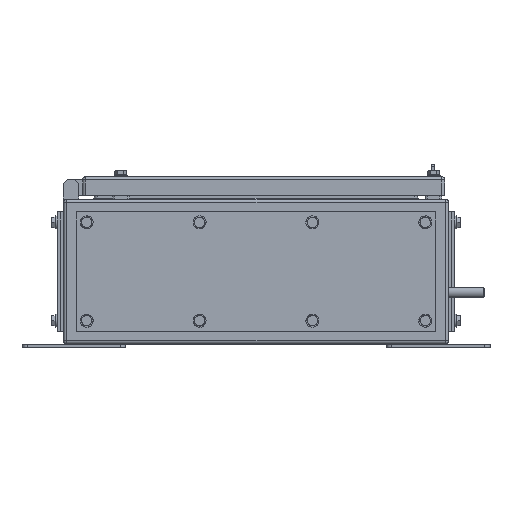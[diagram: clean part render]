
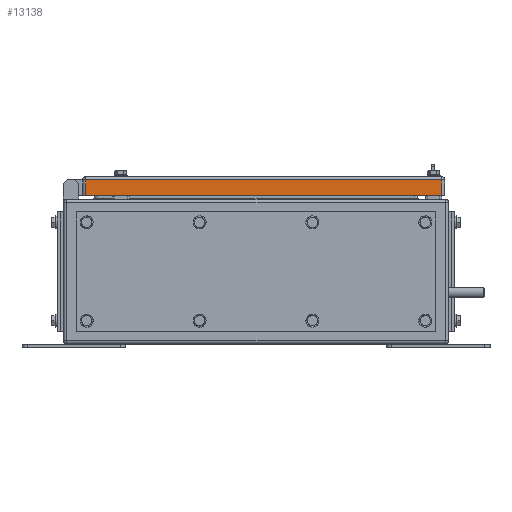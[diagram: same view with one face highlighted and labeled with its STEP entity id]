
A CAD part, front view. The second image highlights one B-rep face of the part: STEP entity #13138.
In plain terms, the highlighted planar face has unit normal (0, -1, 0) as drawn and (-1, 0, 0) by its records, which use the part's own axes.
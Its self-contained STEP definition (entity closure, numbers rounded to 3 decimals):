
#1320 = AXIS2_PLACEMENT_3D ( 'NONE', #15272, #21121, #17225 ) ;
#2494 = LINE ( 'NONE', #20412, #20644 ) ;
#4696 = CARTESIAN_POINT ( 'NONE',  ( -252., -358., 0. ) ) ;
#5413 = PLANE ( 'NONE',  #1320 ) ;
#5900 = VECTOR ( 'NONE', #23517, 1000. ) ;
#5905 = CARTESIAN_POINT ( 'NONE',  ( -252., -358., 15. ) ) ;
#6054 = EDGE_CURVE ( 'NONE', #11086, #15939, #13686, .T. ) ;
#6122 = EDGE_LOOP ( 'NONE', ( #8361, #15525, #10306, #22240 ) ) ;
#6469 = CARTESIAN_POINT ( 'NONE',  ( -252., -361., 15. ) ) ;
#7215 = FACE_OUTER_BOUND ( 'NONE', #6122, .T. ) ;
#8361 = ORIENTED_EDGE ( 'NONE', *, *, #11042, .T. ) ;
#10306 = ORIENTED_EDGE ( 'NONE', *, *, #17042, .T. ) ;
#11042 = EDGE_CURVE ( 'NONE', #17800, #11086, #2494, .T. ) ;
#11086 = VERTEX_POINT ( 'NONE', #4696 ) ;
#13138 = ADVANCED_FACE ( 'NONE', ( #7215 ), #5413, .F. ) ;
#13587 = CARTESIAN_POINT ( 'NONE',  ( -252., -14., 18. ) ) ;
#13686 = LINE ( 'NONE', #15605, #5900 ) ;
#14416 = DIRECTION ( 'NONE',  ( 0., 1., 0. ) ) ;
#15182 = VERTEX_POINT ( 'NONE', #21096 ) ;
#15272 = CARTESIAN_POINT ( 'NONE',  ( -252., -361., 18. ) ) ;
#15525 = ORIENTED_EDGE ( 'NONE', *, *, #6054, .T. ) ;
#15605 = CARTESIAN_POINT ( 'NONE',  ( -252., -358., 18. ) ) ;
#15939 = VERTEX_POINT ( 'NONE', #5905 ) ;
#16427 = VECTOR ( 'NONE', #21486, 1000. ) ;
#17042 = EDGE_CURVE ( 'NONE', #15939, #15182, #18666, .T. ) ;
#17225 = DIRECTION ( 'NONE',  ( 0., 0., -1. ) ) ;
#17800 = VERTEX_POINT ( 'NONE', #18704 ) ;
#18031 = VECTOR ( 'NONE', #14416, 1000. ) ;
#18328 = DIRECTION ( 'NONE',  ( 0., -1., 0. ) ) ;
#18666 = LINE ( 'NONE', #6469, #18031 ) ;
#18704 = CARTESIAN_POINT ( 'NONE',  ( -252., -14., 0. ) ) ;
#19095 = EDGE_CURVE ( 'NONE', #15182, #17800, #23421, .T. ) ;
#20412 = CARTESIAN_POINT ( 'NONE',  ( -252., -361., 0. ) ) ;
#20644 = VECTOR ( 'NONE', #18328, 1000. ) ;
#21096 = CARTESIAN_POINT ( 'NONE',  ( -252., -14., 15. ) ) ;
#21121 = DIRECTION ( 'NONE',  ( 1., 0., 0. ) ) ;
#21486 = DIRECTION ( 'NONE',  ( 0., 0., -1. ) ) ;
#22240 = ORIENTED_EDGE ( 'NONE', *, *, #19095, .T. ) ;
#23421 = LINE ( 'NONE', #13587, #16427 ) ;
#23517 = DIRECTION ( 'NONE',  ( 0., 0., 1. ) ) ;
